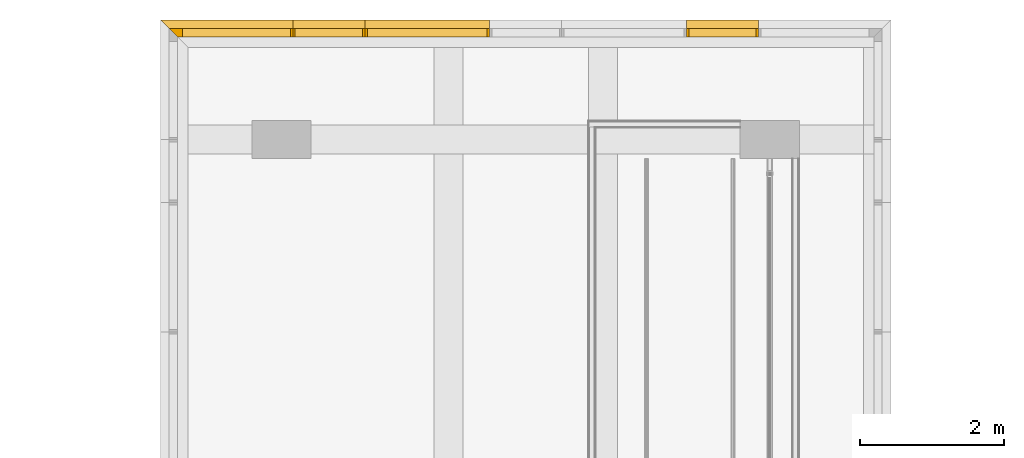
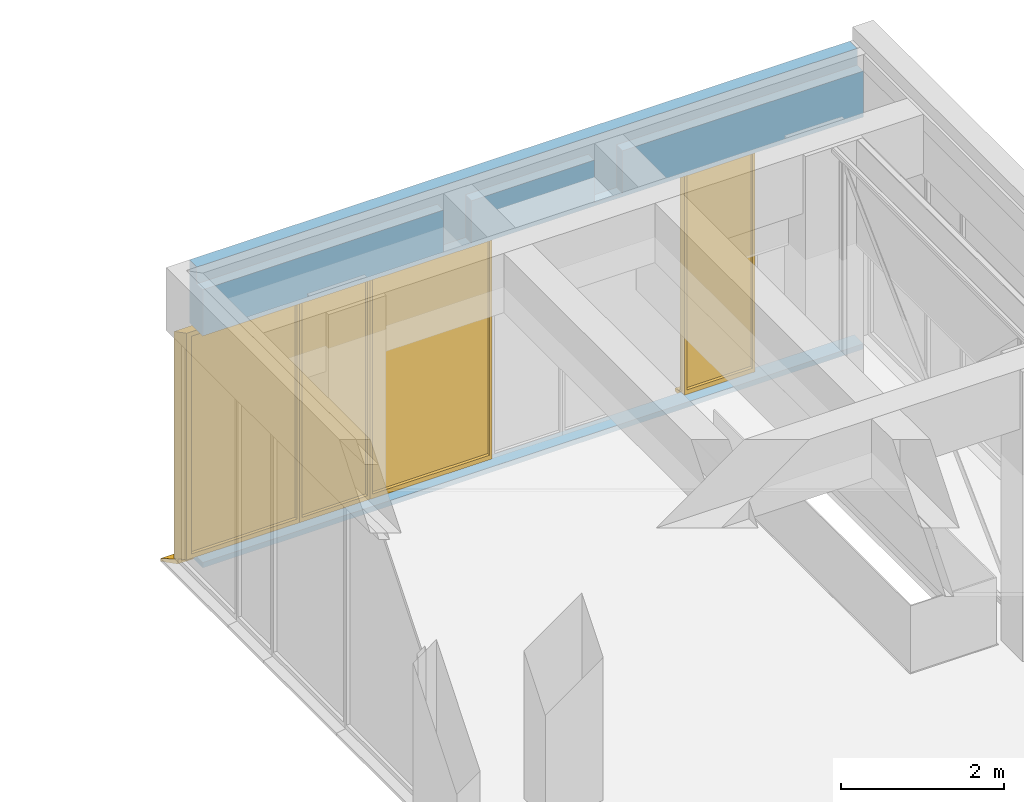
# One storey, part 48 of 117: 4 windows, 7 openings, plus 1 element that does not belong to this part.
"""IFC2X3 building model written with IfcOpenShell, lengths in millimetres."""

from ifc_helpers import new_model, entity, si_unit, converted_unit, derived_unit, money_unit, direction, frame, origin_with_axes, place, context, subcontext, project, spatial, open_shell, faceted_brep, surface_model, source, transform, mapped, material, type_object, type_shapes, element, fill, save


model = new_model("IFC2X3")

# Units and contexts
model_context = context("Model", 3, precision=0.01, world=origin_with_axes(), true_north=direction((0.0, 1.0)))
body_context = subcontext(model_context, "Body", "Model", "MODEL_VIEW")
ifc_project = project(units=[si_unit("LENGTHUNIT", "METRE", prefix="MILLI"), si_unit("AREAUNIT", "SQUARE_METRE"), si_unit("VOLUMEUNIT", "CUBIC_METRE"), converted_unit("PLANEANGLEUNIT", "DEGREE", entity("IfcPlaneAngleMeasure", 0.0174532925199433), si_unit("PLANEANGLEUNIT", "RADIAN"), dimensions=[0, 0, 0, 0, 0, 0, 0]), money_unit("EUR"), converted_unit("TIMEUNIT", "Year", entity("IfcTimeMeasure", 31557600.0), si_unit("TIMEUNIT", "SECOND"), dimensions=[0, 0, 1, 0, 0, 0, 0]), si_unit("MASSUNIT", "GRAM", prefix="KILO"), si_unit("THERMODYNAMICTEMPERATUREUNIT", "DEGREE_CELSIUS"), si_unit("LUMINOUSINTENSITYUNIT", "LUMEN"), si_unit("ENERGYUNIT", "JOULE", prefix="MEGA"), derived_unit("THERMALCONDUCTANCEUNIT", [(si_unit("POWERUNIT", "WATT"), 1), (si_unit("LENGTHUNIT", "METRE"), -1), (si_unit("THERMODYNAMICTEMPERATUREUNIT", "KELVIN"), -1)]), derived_unit("SPECIFICHEATCAPACITYUNIT", [(si_unit("ENERGYUNIT", "JOULE"), 1), (si_unit("MASSUNIT", "GRAM", prefix="KILO"), -1), (si_unit("THERMODYNAMICTEMPERATUREUNIT", "KELVIN"), -1)]), derived_unit("MASSDENSITYUNIT", [(si_unit("MASSUNIT", "GRAM", prefix="KILO"), 1), (si_unit("VOLUMEUNIT", "CUBIC_METRE"), -1)])], contexts=[model_context])

# Site, building, storey
site_placement = place(None, origin_with_axes())
site = spatial("IfcSite", under=ifc_project, at=site_placement, Name="Site", CompositionType="ELEMENT")
building_placement = place(site_placement, origin_with_axes())
building = spatial("IfcBuilding", under=site, at=building_placement, Name="Naam gebouw", CompositionType="ELEMENT")
storey_placement = place(building_placement, frame((0.0, 0.0, 4150.0), z_axis=(0.0, 0.0, 1.0), x_axis=(1.0, 0.0, 0.0)))
storey = spatial("IfcBuildingStorey", under=building, at=storey_placement, Name="1e verdieping N", CompositionType="ELEMENT", Elevation=4150.0)

# Wall, openings, windows
ifc_material = material(Name="ALG - CONSTRUCTIEF")
wall_type = type_object("IfcWallType", Name="ALG - CONSTRUCTIEF 330", PredefinedType="NOTDEFINED")
wall_placement = place(storey_placement, frame((20536.00000000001, 56215.91242510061, -79.9999999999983), z_axis=(0.0, 0.0, 1.0), x_axis=(1.0, 0.0, 0.0)))
wall = element("IfcWall", 1, at=wall_placement, inside=storey, type_object=wall_type, material=ifc_material, Name="_Wand-x", context=body_context, shape_type="Brep", body=[
    faceted_brep([(1454.000000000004, -104.9999999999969, 0.0), (1454.000000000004, -104.9999999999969, 79.99999999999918), (7915.999999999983, -104.9999999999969, 79.99999999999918), (7915.999999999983, -104.9999999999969, 0.0), (0.0, -104.9999999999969, 0.0), (0.0, -104.9999999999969, 79.99999999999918), (1454.000000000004, -329.9999999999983, 79.99999999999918), (7915.999999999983, -329.9999999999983, 79.99999999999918), (9369.999999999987, -104.9999999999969, 79.99999999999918), (9369.999999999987, -104.9999999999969, 0.0), (9369.999999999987, -329.9999999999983, 0.0), (0.0, -329.9999999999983, 0.0), (0.0, -329.9999999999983, 79.99999999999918), (9369.999999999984, -329.9999999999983, 79.99999999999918)], [[[0, 1, 2, 3]], [[1, 0, 4, 5]], [[1, 6, 7, 2]], [[8, 9, 3, 2]], [[4, 0, 3, 9, 10, 11]], [[5, 4, 11, 12]], [[6, 1, 5, 12]], [[6, 12, 11, 10, 13, 7]], [[13, 8, 2, 7]], [[8, 13, 10, 9]]]),
    faceted_brep([(1454.000000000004, -329.9999999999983, 3479.999999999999), (1454.000000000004, -70.00000000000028, 3479.999999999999), (1454.000000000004, 0.0, 3479.999999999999), (7915.999999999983, 0.0, 3479.999999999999), (7915.999999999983, -70.00000000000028, 3479.999999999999), (7915.999999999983, -329.9999999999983, 3479.999999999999), (0.0, -329.9999999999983, 3479.999999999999), (0.0, -70.00000000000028, 3479.999999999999), (0.0, 0.0, 3479.999999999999), (0.0, 0.0, 4419.999999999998), (9369.999999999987, 0.0, 4419.999999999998), (9369.999999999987, 0.0, 3479.999999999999), (9369.999999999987, -70.00000000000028, 3479.999999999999), (9369.999999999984, -329.9999999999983, 3479.999999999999), (9369.999999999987, -329.9968579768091, 4169.999999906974), (5955.999999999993, -329.9968579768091, 4169.999999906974), (5955.999999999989, -329.9999999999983, 3529.999999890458), (5555.99999999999, -329.9999999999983, 3529.999999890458), (5555.999999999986, -329.9968579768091, 4169.999999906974), (3813.999999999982, -329.9968579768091, 4169.999999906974), (3813.999999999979, -329.9999999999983, 3529.999999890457), (3413.99999999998, -329.9999999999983, 3529.999999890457), (3413.999999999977, -329.9968579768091, 4169.999999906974), (0.0, -329.9968579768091, 4169.999999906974), (0.0, -179.9968579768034, 4169.999999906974), (0.0, -179.9968579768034, 4419.999999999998), (9369.999999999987, -179.9968579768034, 4419.999999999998), (9369.999999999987, -179.9968579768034, 4169.999999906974), (5955.999999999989, -179.9968579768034, 4169.999999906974), (5955.999999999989, -179.9968579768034, 3529.999999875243), (5555.99999999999, -179.9968579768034, 3529.999999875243), (5555.99999999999, -179.9968579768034, 4169.999999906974), (3813.999999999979, -179.9968579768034, 4169.999999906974), (3813.999999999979, -179.9999999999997, 3529.999999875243), (3413.99999999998, -179.9999999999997, 3529.999999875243), (3413.99999999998, -179.9968579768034, 4169.999999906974)], [[[0, 1, 2, 3, 4, 5]], [[1, 0, 6, 7]], [[8, 2, 1, 7]], [[2, 8, 9, 10, 11, 3]], [[3, 11, 12, 4]], [[12, 13, 5, 4]], [[6, 0, 5, 13, 14, 15, 16, 17, 18, 19, 20, 21, 22, 23]], [[7, 6, 23, 24, 25, 9, 8]], [[26, 10, 9, 25]], [[13, 12, 11, 10, 26, 27, 14]], [[15, 14, 27, 28]], [[28, 29, 16, 15]], [[16, 29, 30, 17]], [[18, 17, 30, 31]], [[31, 32, 19, 18]], [[32, 33, 20, 19]], [[20, 33, 34, 21]], [[22, 21, 34, 35]], [[35, 24, 23, 22]], [[30, 29, 28, 27, 26, 25, 24, 35, 34, 33, 32, 31]]]),
])
opening_1_placement = place(wall_placement, frame((8715.999999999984, 0.0, 79.99999999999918), z_axis=(0.0, 0.0, 1.0), x_axis=(1.0, 0.0, 0.0)))
element("IfcOpeningElement", 2, at=opening_1_placement, cuts=wall, Name="_Merk-030sp", context=body_context, shape_type="Brep", body=[
    faceted_brep([(984.0000000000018, 0.0, 0.0), (984.0000000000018, 0.9999999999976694, 0.0), (984.0000000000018, 0.9999999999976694, 3400.0), (984.0000000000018, 0.0, 3400.0), (984.9999999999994, 0.9999999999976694, 0.0), (-800.0000000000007, 0.9999999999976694, 0.0), (-800.0000000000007, 0.9999999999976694, 3400.0), (984.9999999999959, 0.9999999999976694, -80.00000000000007), (-800.0000000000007, 0.9999999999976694, -80.00000000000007), (-800.0000000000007, -70.00000000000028, 3400.0), (-800.0000000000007, -330.999999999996, 3400.0), (653.0000000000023, -330.999999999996, 3400.0), (653.0000000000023, -330.999999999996, 0.0), (878.9999999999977, -104.9999999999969, 0.0), (878.9999999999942, -104.9999999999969, -80.00000000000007), (-800.0000000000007, -70.00000000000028, 0.0), (-800.0000000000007, -104.9999999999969, -80.00000000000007), (-800.0000000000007, -104.9999999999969, 0.0), (-800.0000000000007, -330.999999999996, 0.0)], [[[0, 1, 2, 3]], [[1, 0, 4]], [[5, 6, 2, 1, 4, 7, 8]], [[3, 2, 6, 9, 10, 11]], [[3, 11, 12, 13, 14, 7, 4, 0]], [[5, 15, 9, 6]], [[14, 16, 8, 7]], [[15, 5, 8, 16, 17, 18, 10, 9]], [[10, 18, 12, 11]], [[17, 13, 12, 18]], [[13, 17, 16, 14]]]),
])
opening_2_placement = place(wall_placement, frame((3319.500000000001, 0.0, 79.99999999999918), z_axis=(0.0, 0.0, 1.0), x_axis=(1.0, 0.0, 0.0)))
opening_2 = element("IfcOpeningElement", 3, at=opening_2_placement, cuts=wall, Name="_Merk-032", context=body_context, shape_type="Brep", body=[
    faceted_brep([(865.5000000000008, -70.00000000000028, 0.0), (865.5000000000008, 0.9999999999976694, 0.0), (865.5000000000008, 0.9999999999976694, 3400.0), (865.5000000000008, -70.00000000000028, 3400.0), (865.5000000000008, -330.999999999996, 3400.0), (865.5000000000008, -330.999999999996, 0.0), (865.5000000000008, -104.9999999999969, 0.0), (865.5000000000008, -104.9999999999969, -80.00000000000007), (865.5000000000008, 0.9999999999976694, -80.00000000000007), (-865.5000000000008, 0.9999999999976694, 0.0), (-865.5000000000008, 0.9999999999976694, 3400.0), (-865.5000000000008, 0.9999999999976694, -80.00000000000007), (-865.5000000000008, -70.00000000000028, 3400.0), (-865.5000000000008, -330.999999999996, 3400.0), (-865.5000000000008, -330.999999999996, 0.0), (-865.5000000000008, -104.9999999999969, 0.0), (-865.5000000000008, -104.9999999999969, -80.00000000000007), (-865.5000000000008, -70.00000000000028, 0.0)], [[[0, 1, 2, 3]], [[1, 0, 3, 4, 5, 6, 7, 8]], [[9, 10, 2, 1, 8, 11]], [[3, 2, 10, 12, 13, 4]], [[13, 14, 5, 4]], [[15, 6, 5, 14]], [[6, 15, 16, 7]], [[7, 16, 11, 8]], [[9, 17, 12, 10]], [[17, 9, 11, 16, 15, 14, 13, 12]]]),
])
opening_3_placement = place(wall_placement, frame((6050.499999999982, 0.0, 79.99999999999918), z_axis=(0.0, 0.0, 1.0), x_axis=(1.0, 0.0, 0.0)))
element("IfcOpeningElement", 4, at=opening_3_placement, cuts=wall, Name="_Merk-032", context=body_context, shape_type="Brep", body=[
    faceted_brep([(865.5000000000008, -70.00000000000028, 0.0), (865.5000000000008, 0.9999999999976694, 0.0), (865.5000000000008, 0.9999999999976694, 3400.0), (865.5000000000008, -70.00000000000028, 3400.0), (865.5000000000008, -330.999999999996, 3400.0), (865.5000000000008, -330.999999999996, 0.0), (865.5000000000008, -104.9999999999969, 0.0), (865.5000000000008, -104.9999999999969, -80.00000000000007), (865.5000000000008, 0.9999999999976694, -80.00000000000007), (-865.5000000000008, 0.9999999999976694, 0.0), (-865.5000000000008, 0.9999999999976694, 3400.0), (-865.5000000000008, 0.9999999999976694, -80.00000000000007), (-865.5000000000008, -70.00000000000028, 3400.0), (-865.5000000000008, -330.999999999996, 3400.0), (-865.5000000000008, -330.999999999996, 0.0), (-865.5000000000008, -104.9999999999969, 0.0), (-865.5000000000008, -104.9999999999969, -80.00000000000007), (-865.5000000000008, -70.00000000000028, 0.0)], [[[0, 1, 2, 3]], [[1, 0, 3, 4, 5, 6, 7, 8]], [[9, 10, 2, 1, 8, 11]], [[3, 2, 10, 12, 13, 4]], [[13, 14, 5, 4]], [[15, 6, 5, 14]], [[6, 15, 16, 7]], [[7, 16, 11, 8]], [[9, 17, 12, 10]], [[17, 9, 11, 16, 15, 14, 13, 12]]]),
])
opening_4_placement = place(wall_placement, frame((4684.999999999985, 0.0, 79.99999999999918), z_axis=(0.0, 0.0, 1.0), x_axis=(1.0, 0.0, 0.0)))
element("IfcOpeningElement", 5, at=opening_4_placement, cuts=wall, Name="_Merk-031", context=body_context, shape_type="Brep", body=[
    faceted_brep([(500.0, -70.00000000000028, 0.0), (500.0, 0.9999999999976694, 0.0), (500.0, 0.9999999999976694, 3400.0), (500.0, -70.00000000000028, 3400.0), (500.0, -330.999999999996, 3400.0), (500.0, -330.999999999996, 0.0), (500.0, -104.9999999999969, 0.0), (500.0, -104.9999999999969, -80.00000000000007), (500.0, 0.9999999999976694, -80.00000000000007), (-500.0, 0.9999999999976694, 0.0), (-500.0, 0.9999999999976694, 3400.0), (-500.0, 0.9999999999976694, -80.00000000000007), (-500.0, -70.00000000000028, 3400.0), (-500.0, -330.999999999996, 3400.0), (-500.0, -330.999999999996, 0.0), (-500.0, -104.9999999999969, 0.0), (-500.0, -104.9999999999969, -80.00000000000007), (-500.0, -70.00000000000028, 0.0)], [[[0, 1, 2, 3]], [[1, 0, 3, 4, 5, 6, 7, 8]], [[9, 10, 2, 1, 8, 11]], [[3, 2, 10, 12, 13, 4]], [[13, 14, 5, 4]], [[15, 6, 5, 14]], [[6, 15, 16, 7]], [[7, 16, 11, 8]], [[9, 17, 12, 10]], [[17, 9, 11, 16, 15, 14, 13, 12]]]),
])
opening_5_placement = place(wall_placement, frame((1954.000000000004, 0.0, 79.99999999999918), z_axis=(0.0, 0.0, 1.0), x_axis=(1.0, 0.0, 0.0)))
opening_5 = element("IfcOpeningElement", 6, at=opening_5_placement, cuts=wall, Name="_Merk-031", context=body_context, shape_type="Brep", body=[
    faceted_brep([(500.0, -70.00000000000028, 0.0), (500.0, 0.9999999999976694, 0.0), (500.0, 0.9999999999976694, 3400.0), (500.0, -70.00000000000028, 3400.0), (500.0, -330.999999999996, 3400.0), (500.0, -330.999999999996, 0.0), (500.0, -104.9999999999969, 0.0), (500.0, -104.9999999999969, -80.00000000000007), (500.0, 0.9999999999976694, -80.00000000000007), (-500.0, 0.9999999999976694, 0.0), (-500.0, 0.9999999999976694, 3400.0), (-500.0, 0.9999999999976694, -80.00000000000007), (-500.0, -70.00000000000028, 3400.0), (-500.0, -330.999999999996, 3400.0), (-500.0, -330.999999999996, 0.0), (-500.0, -104.9999999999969, 0.0), (-500.0, -104.9999999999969, -80.00000000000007), (-500.0, -70.00000000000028, 0.0)], [[[0, 1, 2, 3]], [[1, 0, 3, 4, 5, 6, 7, 8]], [[9, 10, 2, 1, 8, 11]], [[3, 2, 10, 12, 13, 4]], [[13, 14, 5, 4]], [[15, 6, 5, 14]], [[6, 15, 16, 7]], [[7, 16, 11, 8]], [[9, 17, 12, 10]], [[17, 9, 11, 16, 15, 14, 13, 12]]]),
])
opening_6_placement = place(wall_placement, frame((7415.999999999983, 0.0, 79.99999999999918), z_axis=(0.0, 0.0, 1.0), x_axis=(1.0, 0.0, 0.0)))
opening_6 = element("IfcOpeningElement", 7, at=opening_6_placement, cuts=wall, Name="_Merk-031", context=body_context, shape_type="Brep", body=[
    faceted_brep([(500.0, -70.00000000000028, 0.0), (500.0, 0.9999999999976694, 0.0), (500.0, 0.9999999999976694, 3400.0), (500.0, -70.00000000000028, 3400.0), (500.0, -330.999999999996, 3400.0), (500.0, -330.999999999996, 0.0), (500.0, -104.9999999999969, 0.0), (500.0, -104.9999999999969, -80.00000000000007), (500.0, 0.9999999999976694, -80.00000000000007), (-500.0, 0.9999999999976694, 0.0), (-500.0, 0.9999999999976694, 3400.0), (-500.0, 0.9999999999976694, -80.00000000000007), (-500.0, -70.00000000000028, 3400.0), (-500.0, -330.999999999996, 3400.0), (-500.0, -330.999999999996, 0.0), (-500.0, -104.9999999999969, 0.0), (-500.0, -104.9999999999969, -80.00000000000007), (-500.0, -70.00000000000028, 0.0)], [[[0, 1, 2, 3]], [[1, 0, 3, 4, 5, 6, 7, 8]], [[9, 10, 2, 1, 8, 11]], [[3, 2, 10, 12, 13, 4]], [[13, 14, 5, 4]], [[15, 6, 5, 14]], [[6, 15, 16, 7]], [[7, 16, 11, 8]], [[9, 17, 12, 10]], [[17, 9, 11, 16, 15, 14, 13, 12]]]),
])
opening_7_placement = place(wall_placement, frame((654.0000000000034, 0.0, 79.99999999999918), z_axis=(0.0, 0.0, 1.0), x_axis=(1.0, 0.0, 0.0)))
opening_7 = element("IfcOpeningElement", 8, at=opening_7_placement, cuts=wall, Name="_Merk-030", context=body_context, shape_type="Brep", body=[
    faceted_brep([(800.0000000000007, -70.00000000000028, 0.0), (800.0000000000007, 0.9999999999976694, 0.0), (800.0000000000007, 0.9999999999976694, 3400.0), (800.0000000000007, -70.00000000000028, 3400.0), (800.0000000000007, -330.999999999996, 3400.0), (800.0000000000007, -330.999999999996, 0.0), (800.0000000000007, -104.9999999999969, 0.0), (800.0000000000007, -104.9999999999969, -80.00000000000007), (800.0000000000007, 0.9999999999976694, -80.00000000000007), (-984.0000000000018, 0.9999999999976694, 0.0), (-984.0000000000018, 0.9999999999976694, 3400.0), (-984.9999999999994, 0.9999999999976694, -80.00000000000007), (-984.9999999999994, 0.9999999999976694, 0.0), (-984.0000000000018, 0.0, 3400.0), (-653.0000000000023, -330.999999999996, 3400.0), (-653.0000000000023, -330.999999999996, 0.0), (-878.9999999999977, -104.9999999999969, 0.0), (-878.9999999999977, -104.9999999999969, -80.00000000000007), (-984.0000000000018, 0.0, 0.0)], [[[0, 1, 2, 3]], [[1, 0, 3, 4, 5, 6, 7, 8]], [[9, 10, 2, 1, 8, 11, 12]], [[3, 2, 10, 13, 14, 4]], [[15, 5, 4, 14]], [[16, 6, 5, 15]], [[6, 16, 17, 7]], [[7, 17, 11, 8]], [[9, 18, 13, 10]], [[11, 17, 16, 15, 14, 13, 18, 12]], [[18, 9, 12]]]),
])
window_style_1 = type_object("IfcWindowStyle", Name="R1 26", ConstructionType="NOTDEFINED", OperationType="SINGLE_PANEL", ParameterTakesPrecedence=False, Sizeable=False)
shared_shape_1 = source(origin_with_axes(), body_context, "Body", "SurfaceModel", [
    faceted_brep([(500.0, -79.00000000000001, 0.0), (-500.0, -79.00000000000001, 0.0), (-500.0, -94.0, 0.0), (500.0, -94.0, 0.0), (500.0, -79.0, -80.00000000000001), (-500.0, -79.0, -79.99999999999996), (-500.0, -199.78125, -79.99999999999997), (-500.0, -201.1209959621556, -74.99999999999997), (-500.0, -204.78125, -71.33974596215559), (-500.0, -209.78125, -69.99999999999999), (-500.0, -214.78125, -71.33974596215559), (-500.0, -218.4415040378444, -74.99999999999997), (-500.0, -219.78125, -79.99999999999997), (-500.0, -234.0, -79.99999999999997), (-500.0, -234.0, -34.68577729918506), (-500.0, -94.0, -9.999999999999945), (500.0, -94.0, -10.00000000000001), (500.0, -234.0, -34.68577729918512), (500.0, -234.0, -80.00000000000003), (500.0, -219.78125, -80.00000000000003), (500.0, -218.4415040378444, -75.00000000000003), (500.0, -214.78125, -71.33974596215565), (500.0, -209.78125, -70.00000000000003), (500.0, -204.78125, -71.33974596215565), (500.0, -201.1209959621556, -75.00000000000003), (500.0, -199.78125, -80.00000000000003)], [[[0, 1, 2, 3]], [[4, 5, 1, 0]], [[1, 5, 6, 7, 8, 9, 10, 11, 12, 13, 14, 15, 2]], [[3, 2, 15, 16]], [[0, 3, 16, 17, 18, 19, 20, 21, 22, 23, 24, 25, 4]], [[25, 6, 5, 4]], [[24, 7, 6, 25]], [[23, 8, 7, 24]], [[22, 9, 8, 23]], [[21, 10, 9, 22]], [[20, 11, 10, 21]], [[19, 12, 11, 20]], [[18, 13, 12, 19]], [[17, 14, 13, 18]], [[16, 15, 14, 17]]]),
    faceted_brep([(466.5, -114.0000000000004, 3333.0), (500.0, -114.0000000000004, 3333.0), (500.0, 0.0, 3333.0), (466.5, 0.0, 3333.0), (466.5, -114.0, 66.99999999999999), (500.0, -114.0, 66.99999999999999), (500.0, 0.0, 67.0), (466.5, 0.0, 67.0)], [[[0, 1, 2, 3]], [[0, 4, 5, 1]], [[1, 5, 6, 2]], [[3, 2, 6, 7]], [[4, 0, 3, 7]], [[5, 4, 7, 6]]]),
    faceted_brep([(-466.5, -114.0, 66.99999999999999), (-500.0, -114.0, 66.99999999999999), (-500.0, 0.0, 67.0), (-466.5, 0.0, 67.0), (-466.5, -114.0000000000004, 3333.0), (-500.0, -114.0000000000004, 3333.0), (-500.0, 0.0, 3333.0), (-466.5, 0.0, 3333.0)], [[[0, 1, 2, 3]], [[0, 4, 5, 1]], [[1, 5, 6, 2]], [[3, 2, 6, 7]], [[4, 0, 3, 7]], [[5, 4, 7, 6]]]),
    faceted_brep([(466.5, -114.0, 66.99999999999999), (500.0, -114.0, 66.99999999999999), (500.0, 0.0, 67.0), (466.5, 0.0, 67.0), (-466.5, -114.0, 66.99999999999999), (-500.0, -114.0, 66.99999999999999), (-500.0, -114.0, 0.0), (500.0, -114.0, 0.0), (500.0, 0.0, 0.0), (-500.0, 0.0, 0.0), (-500.0, 0.0, 67.0), (-466.5, 0.0, 67.0)], [[[0, 1, 2, 3]], [[0, 4, 5, 6, 7, 1]], [[1, 7, 8, 2]], [[3, 2, 8, 9, 10, 11]], [[4, 0, 3, 11]], [[5, 4, 11, 10]], [[6, 5, 10, 9]], [[7, 6, 9, 8]]]),
    faceted_brep([(-466.5, -114.0000000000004, 3333.0), (-500.0, -114.0000000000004, 3333.0), (-500.0, 0.0, 3333.0), (-466.5, 0.0, 3333.0), (466.5, -114.0000000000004, 3333.0), (500.0, -114.0000000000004, 3333.0), (500.0, -114.0000000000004, 3400.0), (-500.0, -114.0000000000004, 3400.0), (-500.0, 0.0, 3400.0), (500.0, 0.0, 3400.0), (500.0, 0.0, 3333.0), (466.5, 0.0, 3333.0)], [[[0, 1, 2, 3]], [[0, 4, 5, 6, 7, 1]], [[1, 7, 8, 2]], [[3, 2, 8, 9, 10, 11]], [[4, 0, 3, 11]], [[5, 4, 11, 10]], [[6, 5, 10, 9]], [[7, 6, 9, 8]]]),
    surface_model("IfcShellBasedSurfaceModel", [(466.5, -64.0, 66.99999999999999), (466.5, -64.0000000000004, 3333.0), (-466.5, -64.0000000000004, 3333.0), (-466.5, -64.0, 66.99999999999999)], [open_shell([[[0, 1, 2, 3]]])]),
    surface_model("IfcShellBasedSurfaceModel", [(466.5, -44.0, 66.99999999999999), (-466.5, -44.0, 66.99999999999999), (-466.5, -44.0000000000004, 3333.0), (466.5, -44.0000000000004, 3333.0)], [open_shell([[[0, 1, 2, 3]]])]),
])
type_shapes(window_style_1, [shared_shape_1])
window_1_placement = place(opening_5_placement, frame((500.0, 0.0, 0.0), z_axis=(0.0, 0.0, 1.0), x_axis=(-1.0, 0.0, 0.0)))
window_1 = element("IfcWindow", 9, at=window_1_placement, inside=storey, type_object=window_style_1, Name="_Merk-031", ObjectType="WINDOW", OverallHeight=3400.0, OverallWidth=1000.0, context=body_context, shape_type="MappedRepresentation", body=[
    mapped(shared_shape_1, transform((500.0, 183.9999999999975, 0.0))),
])
fill(opening_5, window_1)
window_2_placement = place(opening_6_placement, frame((500.0, 0.0, 0.0), z_axis=(0.0, 0.0, 1.0), x_axis=(-1.0, 0.0, 0.0)))
window_2 = element("IfcWindow", 10, at=window_2_placement, inside=storey, type_object=window_style_1, Name="_Merk-031", ObjectType="WINDOW", OverallHeight=3400.0, OverallWidth=1000.0, context=body_context, shape_type="MappedRepresentation", body=[
    mapped(shared_shape_1, transform((500.0, 183.9999999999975, 0.0))),
])
fill(opening_6, window_2)
window_style_2 = type_object("IfcWindowStyle", Name="Rnx verticaal 26", ConstructionType="NOTDEFINED", OperationType="SINGLE_PANEL", ParameterTakesPrecedence=False, Sizeable=False)
shared_shape_2 = source(origin_with_axes(), body_context, "Body", "SurfaceModel", [
    faceted_brep([(865.5, -79.00000000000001, 0.0), (-865.5, -79.00000000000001, 0.0), (-865.5, -94.0, 0.0), (865.5, -94.0, 0.0), (865.5, -79.0, -80.00000000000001), (-865.5, -79.0, -79.9999999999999), (-865.5, -199.78125, -79.99999999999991), (-865.5, -201.1209959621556, -74.99999999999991), (-865.5, -204.78125, -71.33974596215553), (-865.5, -209.78125, -69.99999999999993), (-865.5, -214.78125, -71.33974596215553), (-865.5, -218.4415040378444, -74.99999999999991), (-865.5, -219.78125, -79.99999999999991), (-865.5, -234.0, -79.99999999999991), (-865.5, -234.0, -34.68577729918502), (-865.5, -94.0, -9.999999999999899), (865.5, -94.0, -10.00000000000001), (865.5, -234.0, -34.68577729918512), (865.5, -234.0, -80.00000000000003), (865.5, -219.78125, -80.00000000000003), (865.5, -218.4415040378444, -75.00000000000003), (865.5, -214.78125, -71.33974596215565), (865.5, -209.78125, -70.00000000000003), (865.5, -204.78125, -71.33974596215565), (865.5, -201.1209959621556, -75.00000000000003), (865.5, -199.78125, -80.00000000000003)], [[[0, 1, 2, 3]], [[4, 5, 1, 0]], [[1, 5, 6, 7, 8, 9, 10, 11, 12, 13, 14, 15, 2]], [[3, 2, 15, 16]], [[0, 3, 16, 17, 18, 19, 20, 21, 22, 23, 24, 25, 4]], [[25, 6, 5, 4]], [[24, 7, 6, 25]], [[23, 8, 7, 24]], [[22, 9, 8, 23]], [[21, 10, 9, 22]], [[20, 11, 10, 21]], [[19, 12, 11, 20]], [[18, 13, 12, 19]], [[17, 14, 13, 18]], [[16, 15, 14, 17]]]),
    faceted_brep([(832.0000000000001, -114.0000000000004, 3333.0), (865.5, -114.0000000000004, 3333.0), (865.5, 0.0, 3333.0), (832.0000000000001, 0.0, 3333.0), (832.0000000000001, -114.0, 66.99999999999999), (865.5, -114.0, 66.99999999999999), (865.5, 0.0, 67.0), (832.0000000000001, 0.0, 67.0)], [[[0, 1, 2, 3]], [[0, 4, 5, 1]], [[1, 5, 6, 2]], [[3, 2, 6, 7]], [[4, 0, 3, 7]], [[5, 4, 7, 6]]]),
    faceted_brep([(-832.0000000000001, -114.0, 66.99999999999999), (-865.5, -114.0, 66.99999999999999), (-865.5, 0.0, 67.0), (-832.0000000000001, 0.0, 67.0), (-832.0000000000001, -114.0000000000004, 3333.0), (-865.5, -114.0000000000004, 3333.0), (-865.5, 0.0, 3333.0), (-832.0000000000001, 0.0, 3333.0)], [[[0, 1, 2, 3]], [[0, 4, 5, 1]], [[1, 5, 6, 2]], [[3, 2, 6, 7]], [[4, 0, 3, 7]], [[5, 4, 7, 6]]]),
    faceted_brep([(-832.0000000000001, -114.0000000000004, 3333.0), (-865.5, -114.0000000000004, 3333.0), (-865.5, 0.0, 3333.0), (-832.0000000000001, 0.0, 3333.0), (832.0000000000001, -114.0000000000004, 3333.0), (865.5, -114.0000000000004, 3333.0), (865.5, -114.0000000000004, 3400.0), (-865.5, -114.0000000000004, 3400.0), (-865.5, 0.0, 3400.0), (865.5, 0.0, 3400.0), (865.5, 0.0, 3333.0), (832.0000000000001, 0.0, 3333.0)], [[[0, 1, 2, 3]], [[0, 4, 5, 6, 7, 1]], [[1, 7, 8, 2]], [[3, 2, 8, 9, 10, 11]], [[4, 0, 3, 11]], [[5, 4, 11, 10]], [[6, 5, 10, 9]], [[7, 6, 9, 8]]]),
    faceted_brep([(832.0000000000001, -114.0, 66.99999999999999), (865.5, -114.0, 66.99999999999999), (865.5, 0.0, 67.0), (832.0000000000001, 0.0, 67.0), (-832.0000000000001, -114.0, 66.99999999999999), (-865.5, -114.0, 66.99999999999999), (-865.5, -114.0, 0.0), (865.5, -114.0, 0.0), (865.5, 0.0, 0.0), (-865.5, 0.0, 0.0), (-865.5, 0.0, 67.0), (-832.0000000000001, 0.0, 67.0)], [[[0, 1, 2, 3]], [[0, 4, 5, 6, 7, 1]], [[1, 7, 8, 2]], [[3, 2, 8, 9, 10, 11]], [[4, 0, 3, 11]], [[5, 4, 11, 10]], [[6, 5, 10, 9]], [[7, 6, 9, 8]]]),
    surface_model("IfcShellBasedSurfaceModel", [(832.0000000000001, -64.0, 66.99999999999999), (832.0000000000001, -64.0000000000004, 3333.0), (-832.0000000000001, -64.0000000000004, 3333.0), (-832.0000000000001, -64.0, 66.99999999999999)], [open_shell([[[0, 1, 2, 3]]])]),
    surface_model("IfcShellBasedSurfaceModel", [(832.0000000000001, -44.0, 66.99999999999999), (-832.0000000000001, -44.0, 66.99999999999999), (-832.0000000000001, -44.0000000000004, 3333.0), (832.0000000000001, -44.0000000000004, 3333.0)], [open_shell([[[0, 1, 2, 3]]])]),
])
type_shapes(window_style_2, [shared_shape_2])
window_3_placement = place(opening_2_placement, frame((865.5000000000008, 0.0, 0.0), z_axis=(0.0, 0.0, 1.0), x_axis=(-1.0, 0.0, 0.0)))
window_3 = element("IfcWindow", 11, at=window_3_placement, inside=storey, type_object=window_style_2, Name="_Merk-032", ObjectType="WINDOW", OverallHeight=3400.0, OverallWidth=1731.0, context=body_context, shape_type="MappedRepresentation", body=[
    mapped(shared_shape_2, transform((865.5000000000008, 183.9999999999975, 0.0))),
])
fill(opening_2, window_3)
window_style_3 = type_object("IfcWindowStyle", Name="Rnx verticaal 26", ConstructionType="NOTDEFINED", OperationType="SINGLE_PANEL", ParameterTakesPrecedence=False, Sizeable=False)
window_4_placement = place(opening_7_placement, frame((800.0000000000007, 0.0, 0.0), z_axis=(0.0, 0.0, 1.0), x_axis=(-1.0, 0.0, 0.0)))
window_4 = element("IfcWindow", 12, at=window_4_placement, inside=storey, type_object=window_style_3, Name="_Merk-030", ObjectType="WINDOW", OverallHeight=3400.0, OverallWidth=1600.0, context=body_context, shape_type="SurfaceModel", body=[
    faceted_brep([(0.0, 104.9999999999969, 0.0), (0.0, 89.9999999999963, 0.0), (1694.000000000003, 89.9999999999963, 0.0), (1679.000000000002, 104.9999999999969, 0.0), (0.0, 104.9999999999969, -80.00000000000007), (0.0, -15.78125000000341, -80.00000000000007), (0.0, -17.12099596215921, -75.00000000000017), (0.0, -20.78124999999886, -71.33974596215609), (0.0, -25.78125000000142, -70.00000000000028), (0.0, -30.78125000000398, -71.33974596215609), (0.0, -34.44150403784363, -75.00000000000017), (0.0, -35.78124999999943, -80.00000000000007), (0.0, -50.00000000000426, -80.00000000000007), (0.0, -50.00000000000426, -34.68577729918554), (0.0, 89.9999999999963, -9.999999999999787), (1694.000000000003, 89.9999999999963, -9.999999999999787), (1834.0, -50.00000000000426, -34.68577729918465), (1834.0, -50.00000000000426, -80.00000000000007), (1819.781250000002, -35.78124999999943, -80.00000000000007), (1818.441504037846, -34.44150403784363, -75.00000000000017), (1814.781249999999, -30.78125000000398, -71.3397459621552), (1809.78125, -25.78125000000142, -70.00000000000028), (1804.781250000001, -20.78125000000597, -71.3397459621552), (1801.120995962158, -17.12099596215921, -75.00000000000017), (1799.781250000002, -15.78125000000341, -80.00000000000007), (1679.000000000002, 104.9999999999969, -80.00000000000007)], [[[0, 1, 2, 3]], [[0, 4, 5, 6, 7, 8, 9, 10, 11, 12, 13, 14, 1]], [[1, 14, 15, 2]], [[3, 2, 15, 16, 17, 18, 19, 20, 21, 22, 23, 24, 25]], [[4, 0, 3, 25]], [[5, 4, 25, 24]], [[6, 5, 24, 23]], [[7, 6, 23, 22]], [[8, 7, 22, 21]], [[9, 8, 21, 20]], [[10, 9, 20, 19]], [[11, 10, 19, 18]], [[12, 11, 18, 17]], [[13, 12, 17, 16]], [[14, 13, 16, 15]]]),
    faceted_brep([(33.50000000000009, 70.00000000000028, 3332.999999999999), (33.50000000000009, 183.9999999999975, 3332.999999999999), (0.0, 183.9999999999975, 3332.999999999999), (0.0, 70.00000000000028, 3332.999999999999), (33.50000000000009, 70.00000000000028, 67.00000000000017), (33.50000000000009, 183.9999999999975, 67.00000000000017), (0.0, 183.9999999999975, 67.00000000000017), (0.0, 70.00000000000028, 67.00000000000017)], [[[0, 1, 2, 3]], [[4, 5, 1, 0]], [[1, 5, 6, 2]], [[3, 2, 6, 7]], [[0, 3, 7, 4]], [[7, 6, 5, 4]]]),
    faceted_brep([(1533.000000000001, 70.00000000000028, 67.00000000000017), (1533.000000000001, 70.00000000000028, 3332.999999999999), (1533.000000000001, 183.9999999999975, 3332.999999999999), (1533.000000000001, 183.9999999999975, 67.00000000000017), (1714.000000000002, 70.00000000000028, 67.00000000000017), (1714.000000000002, 70.00000000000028, 3332.999999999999), (1600.000000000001, 183.9999999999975, 3332.999999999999), (1600.000000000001, 183.9999999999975, 67.00000000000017)], [[[0, 1, 2, 3]], [[1, 0, 4, 5]], [[1, 5, 6, 2]], [[7, 3, 2, 6]], [[3, 7, 4, 0]], [[7, 6, 5, 4]]]),
    faceted_brep([(0.0, 183.9999999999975, 3332.999999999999), (33.50000000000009, 183.9999999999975, 3332.999999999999), (33.50000000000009, 70.00000000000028, 3332.999999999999), (0.0, 70.00000000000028, 3332.999999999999), (0.0, 183.9999999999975, 3400.0), (1600.000000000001, 183.9999999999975, 3400.0), (1600.000000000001, 183.9999999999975, 3332.999999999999), (1533.000000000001, 183.9999999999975, 3332.999999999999), (1533.000000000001, 70.00000000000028, 3332.999999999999), (1714.000000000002, 70.00000000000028, 3332.999999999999), (1714.000000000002, 70.00000000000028, 3400.0), (0.0, 70.00000000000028, 3400.0)], [[[0, 1, 2, 3]], [[1, 0, 4, 5, 6, 7]], [[8, 2, 1, 7]], [[3, 2, 8, 9, 10, 11]], [[4, 0, 3, 11]], [[4, 11, 10, 5]], [[10, 9, 6, 5]], [[7, 6, 9, 8]]]),
    faceted_brep([(33.50000000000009, 183.9999999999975, 67.00000000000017), (0.0, 183.9999999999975, 67.00000000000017), (0.0, 70.00000000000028, 67.00000000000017), (33.50000000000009, 70.00000000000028, 67.00000000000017), (0.0, 183.9999999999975, 0.0), (1533.000000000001, 183.9999999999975, 67.00000000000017), (1600.000000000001, 183.9999999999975, 67.00000000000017), (1600.000000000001, 183.9999999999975, 0.0), (0.0, 70.00000000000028, 0.0), (1714.000000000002, 70.00000000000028, 0.0), (1714.000000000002, 70.00000000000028, 67.00000000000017), (1533.000000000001, 70.00000000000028, 67.00000000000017)], [[[0, 1, 2, 3]], [[4, 1, 0, 5, 6, 7]], [[4, 8, 2, 1]], [[2, 8, 9, 10, 11, 3]], [[3, 11, 5, 0]], [[6, 5, 11, 10]], [[9, 7, 6, 10]], [[8, 4, 7, 9]]]),
    surface_model("IfcShellBasedSurfaceModel", [(33.50000000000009, 119.9999999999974, 67.00000000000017), (1533.000000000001, 119.9999999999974, 67.00000000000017), (1533.000000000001, 119.9999999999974, 3333.0), (33.50000000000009, 119.9999999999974, 3333.0)], [open_shell([[[0, 1, 2, 3]]])]),
    surface_model("IfcShellBasedSurfaceModel", [(33.50000000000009, 140.0000000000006, 67.00000000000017), (33.50000000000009, 139.9999999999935, 3333.0), (1533.000000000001, 139.9999999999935, 3333.0), (1533.000000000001, 140.0000000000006, 67.00000000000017)], [open_shell([[[0, 1, 2, 3]]])]),
])
fill(opening_7, window_4)

save(model, "model.ifc")
